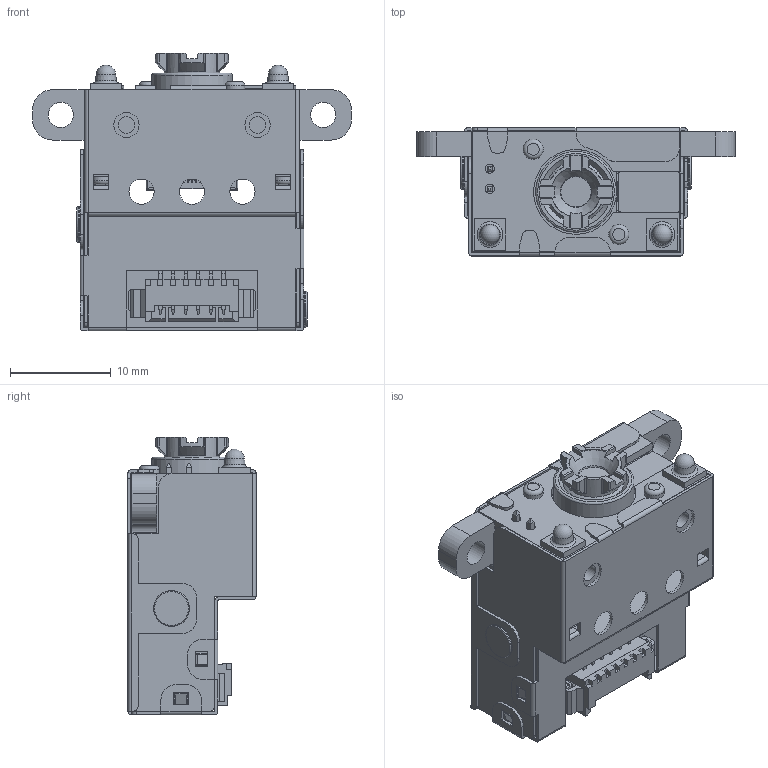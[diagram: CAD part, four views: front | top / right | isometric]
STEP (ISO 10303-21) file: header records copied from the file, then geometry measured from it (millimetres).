
FILE_DESCRIPTION(/* description */ (''),/* implementation_level */ '2;1');
FILE_NAME(/* name */ '3DCAD_DCR50.stp',/* time_stamp */ '2017-03-03T09:55:32+01:00',/* author */ ('CC2'),/* organization */ ('Leuze electronic'),/* preprocessor_version */ 'ST-DEVELOPER v15',/* originating_system */ 'SIEMENS PLM Software NX 8.5',/* authorisation */ '');
FILE_SCHEMA (('AUTOMOTIVE_DESIGN { 1 0 10303 214 3 1 1 1 }'));
Products named in the file (1): 011187_00.0
Bounding box: 31.6 x 12.7 x 27.52 mm (x, y, z)
Volume: 3334 mm3; surface area: 6800.8 mm2
Topology: 3 solids, 3 shells, 2874 faces, 8355 edges, 5439 vertices
Faces by surface type: plane 2486, cylinder 333, cone 22, sphere 18, torus 15
Full cylindrical faces by diameter (mm): 0.9 x4, 1.65 x4, 2 x10, 2.5 x20, 3.55 x2, 5.5 x1, 6 x1, 8 x1
Entity records: 93151 total; most frequent: CARTESIAN_POINT 16968, ORIENTED_EDGE 16510, DIRECTION 14594, EDGE_CURVE 8255, LINE 7484, VECTOR 7484, VERTEX_POINT 5421, AXIS2_PLACEMENT_3D 3555
